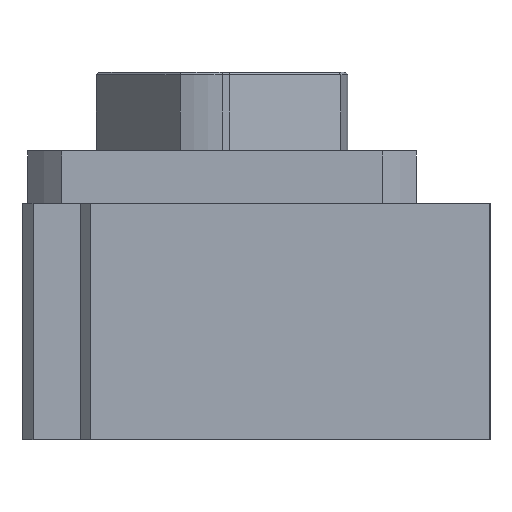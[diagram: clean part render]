
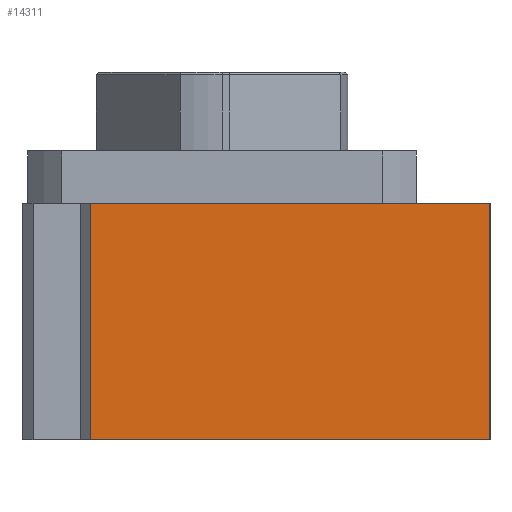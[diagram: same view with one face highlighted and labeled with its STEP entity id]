
A CAD part, left-side view. The second image highlights one B-rep face of the part: STEP entity #14311.
In plain terms, the highlighted planar face has unit normal (-1, 0, 0).
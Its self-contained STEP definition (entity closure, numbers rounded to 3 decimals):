
#443 = DIRECTION ( 'NONE',  ( 1., 0., 0. ) ) ;
#2559 = VERTEX_POINT ( 'NONE', #26203 ) ;
#3202 = CARTESIAN_POINT ( 'NONE',  ( -92.463, -28.453, -22.5 ) ) ;
#3374 = CARTESIAN_POINT ( 'NONE',  ( -92.463, -28.453, 22.5 ) ) ;
#3593 = B_SPLINE_CURVE_WITH_KNOTS ( 'NONE', 3,
 ( #10569, #17280, #15348, #17012 ),
 .UNSPECIFIED., .F., .F.,
 ( 4, 4 ),
 ( 0., 1. ),
 .UNSPECIFIED. ) ;
#4144 = CARTESIAN_POINT ( 'NONE',  ( -92.463, 47.547, 22.5 ) ) ;
#4190 = B_SPLINE_CURVE_WITH_KNOTS ( 'NONE', 3,
 ( #8767, #19047, #6835, #4786 ),
 .UNSPECIFIED., .F., .F.,
 ( 4, 4 ),
 ( 0., 1. ),
 .UNSPECIFIED. ) ;
#4412 = CARTESIAN_POINT ( 'NONE',  ( -92.463, -3.12, 22.5 ) ) ;
#4786 = CARTESIAN_POINT ( 'NONE',  ( -92.463, -28.453, -22.5 ) ) ;
#6087 = EDGE_CURVE ( 'NONE', #17842, #2559, #18734, .T. ) ;
#6284 = DIRECTION ( 'NONE',  ( 0., 1., 0. ) ) ;
#6420 = EDGE_LOOP ( 'NONE', ( #6689, #13058, #12276, #17490 ) ) ;
#6689 = ORIENTED_EDGE ( 'NONE', *, *, #6087, .T. ) ;
#6835 = CARTESIAN_POINT ( 'NONE',  ( -92.463, -28.453, -7.5 ) ) ;
#7974 = CARTESIAN_POINT ( 'NONE',  ( -92.463, -28.453, 22.5 ) ) ;
#8240 = CARTESIAN_POINT ( 'NONE',  ( -92.463, 47.547, 22.5 ) ) ;
#8767 = CARTESIAN_POINT ( 'NONE',  ( -92.463, -28.453, 22.5 ) ) ;
#9533 = EDGE_CURVE ( 'NONE', #19556, #19897, #3593, .T. ) ;
#10569 = CARTESIAN_POINT ( 'NONE',  ( -92.463, -28.453, -22.5 ) ) ;
#11833 = CARTESIAN_POINT ( 'NONE',  ( -92.463, 47.547, -22.5 ) ) ;
#12276 = ORIENTED_EDGE ( 'NONE', *, *, #9533, .F. ) ;
#12571 = FACE_OUTER_BOUND ( 'NONE', #6420, .T. ) ;
#13058 = ORIENTED_EDGE ( 'NONE', *, *, #18324, .T. ) ;
#14311 = ADVANCED_FACE ( 'NONE', ( #12571 ), #25565, .F. ) ;
#14537 = CARTESIAN_POINT ( 'NONE',  ( -92.463, 47.547, -22.5 ) ) ;
#15348 = CARTESIAN_POINT ( 'NONE',  ( -92.463, 22.213, -22.5 ) ) ;
#15412 = EDGE_CURVE ( 'NONE', #17842, #19556, #4190, .T. ) ;
#15692 = AXIS2_PLACEMENT_3D ( 'NONE', #19268, #443, #6284 ) ;
#16594 = CARTESIAN_POINT ( 'NONE',  ( -92.463, 47.547, -7.5 ) ) ;
#17012 = CARTESIAN_POINT ( 'NONE',  ( -92.463, 47.547, -22.5 ) ) ;
#17280 = CARTESIAN_POINT ( 'NONE',  ( -92.463, -3.12, -22.5 ) ) ;
#17490 = ORIENTED_EDGE ( 'NONE', *, *, #15412, .F. ) ;
#17842 = VERTEX_POINT ( 'NONE', #3374 ) ;
#18324 = EDGE_CURVE ( 'NONE', #2559, #19897, #20450, .T. ) ;
#18734 = B_SPLINE_CURVE_WITH_KNOTS ( 'NONE', 3,
 ( #7974, #4412, #24834, #4144 ),
 .UNSPECIFIED., .F., .F.,
 ( 4, 4 ),
 ( 0., 1. ),
 .UNSPECIFIED. ) ;
#19047 = CARTESIAN_POINT ( 'NONE',  ( -92.463, -28.453, 7.5 ) ) ;
#19268 = CARTESIAN_POINT ( 'NONE',  ( -92.463, -28.453, 22.5 ) ) ;
#19556 = VERTEX_POINT ( 'NONE', #3202 ) ;
#19897 = VERTEX_POINT ( 'NONE', #11833 ) ;
#20450 = B_SPLINE_CURVE_WITH_KNOTS ( 'NONE', 3,
 ( #8240, #27010, #16594, #14537 ),
 .UNSPECIFIED., .F., .F.,
 ( 4, 4 ),
 ( 0., 1. ),
 .UNSPECIFIED. ) ;
#24834 = CARTESIAN_POINT ( 'NONE',  ( -92.463, 22.213, 22.5 ) ) ;
#25565 = PLANE ( 'NONE',  #15692 ) ;
#26203 = CARTESIAN_POINT ( 'NONE',  ( -92.463, 47.547, 22.5 ) ) ;
#27010 = CARTESIAN_POINT ( 'NONE',  ( -92.463, 47.547, 7.5 ) ) ;
